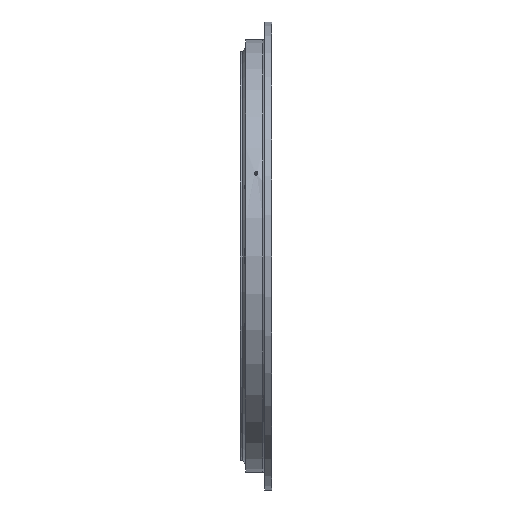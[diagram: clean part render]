
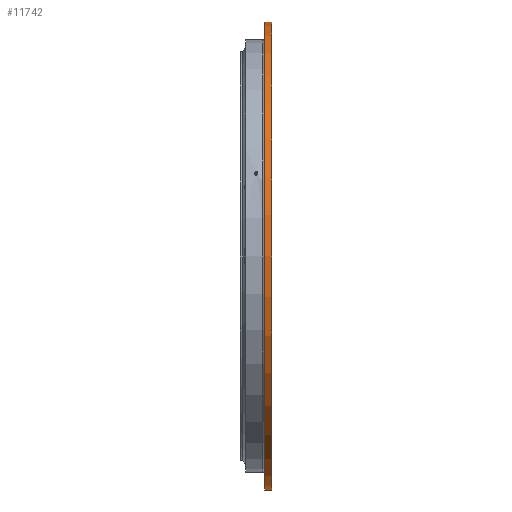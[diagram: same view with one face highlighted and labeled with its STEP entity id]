
A CAD part, left-side view. The second image highlights one B-rep face of the part: STEP entity #11742.
In plain terms, the highlighted cylindrical face has radius 425 mm (diameter 850 mm), a partial arc.
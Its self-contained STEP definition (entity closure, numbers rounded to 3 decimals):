
#347 = CARTESIAN_POINT ( 'NONE',  ( 0., 12.134, -425. ) ) ;
#1678 = EDGE_CURVE ( 'NONE', #7367, #4976, #27348, .T. ) ;
#2859 = CARTESIAN_POINT ( 'NONE',  ( 0., 0., -425. ) ) ;
#4524 = CARTESIAN_POINT ( 'NONE',  ( 0., -0.866, 425. ) ) ;
#4976 = VERTEX_POINT ( 'NONE', #347 ) ;
#5219 = FACE_OUTER_BOUND ( 'NONE', #14613, .T. ) ;
#7082 = CARTESIAN_POINT ( 'NONE',  ( 0., -0.866, -425. ) ) ;
#7343 = CARTESIAN_POINT ( 'NONE',  ( 0., 0., 0. ) ) ;
#7367 = VERTEX_POINT ( 'NONE', #14678 ) ;
#7547 = LINE ( 'NONE', #24277, #23970 ) ;
#7896 = ORIENTED_EDGE ( 'NONE', *, *, #19713, .F. ) ;
#7943 = CYLINDRICAL_SURFACE ( 'NONE', #21738, 425. ) ;
#8086 = DIRECTION ( 'NONE',  ( 0., -1., 0. ) ) ;
#8392 = AXIS2_PLACEMENT_3D ( 'NONE', #20677, #20821, #11683 ) ;
#8568 = EDGE_CURVE ( 'NONE', #4976, #13810, #20173, .T. ) ;
#11529 = CIRCLE ( 'NONE', #28515, 425. ) ;
#11683 = DIRECTION ( 'NONE',  ( 0., 0., -1. ) ) ;
#11742 = ADVANCED_FACE ( 'NONE', ( #5219 ), #7943, .T. ) ;
#11980 = DIRECTION ( 'NONE',  ( 0., -1., 0. ) ) ;
#12213 = DIRECTION ( 'NONE',  ( 0., 0., -1. ) ) ;
#13130 = EDGE_CURVE ( 'NONE', #20630, #13810, #11529, .T. ) ;
#13810 = VERTEX_POINT ( 'NONE', #7082 ) ;
#14484 = DIRECTION ( 'NONE',  ( 0., -1., 0. ) ) ;
#14568 = DIRECTION ( 'NONE',  ( 0., -1., 0. ) ) ;
#14613 = EDGE_LOOP ( 'NONE', ( #7896, #15375, #27078, #18406 ) ) ;
#14678 = CARTESIAN_POINT ( 'NONE',  ( 0., 12.134, 425. ) ) ;
#15375 = ORIENTED_EDGE ( 'NONE', *, *, #1678, .T. ) ;
#18406 = ORIENTED_EDGE ( 'NONE', *, *, #13130, .F. ) ;
#19713 = EDGE_CURVE ( 'NONE', #7367, #20630, #7547, .T. ) ;
#20173 = LINE ( 'NONE', #2859, #24386 ) ;
#20280 = CARTESIAN_POINT ( 'NONE',  ( 0., -0.866, 0. ) ) ;
#20630 = VERTEX_POINT ( 'NONE', #4524 ) ;
#20677 = CARTESIAN_POINT ( 'NONE',  ( 0., 12.134, 0. ) ) ;
#20821 = DIRECTION ( 'NONE',  ( 0., -1., 0. ) ) ;
#21738 = AXIS2_PLACEMENT_3D ( 'NONE', #7343, #14484, #12213 ) ;
#22558 = DIRECTION ( 'NONE',  ( 0., 0., -1. ) ) ;
#23970 = VECTOR ( 'NONE', #11980, 1000. ) ;
#24277 = CARTESIAN_POINT ( 'NONE',  ( 0., 0., 425. ) ) ;
#24386 = VECTOR ( 'NONE', #14568, 1000. ) ;
#27078 = ORIENTED_EDGE ( 'NONE', *, *, #8568, .T. ) ;
#27348 = CIRCLE ( 'NONE', #8392, 425. ) ;
#28515 = AXIS2_PLACEMENT_3D ( 'NONE', #20280, #8086, #22558 ) ;
